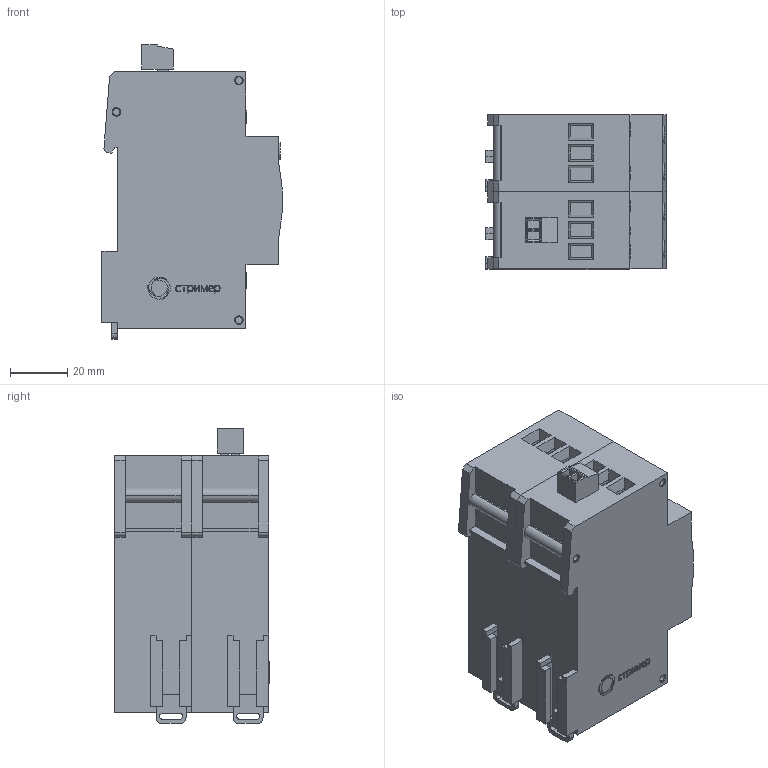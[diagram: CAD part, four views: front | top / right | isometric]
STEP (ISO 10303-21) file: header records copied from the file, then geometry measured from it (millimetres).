
FILE_DESCRIPTION(('TFLEX Exchange Step'),'2;1');
FILE_NAME('X2\041004400442\X0\.134.101.stp', '2022-07-15T15:46:55+03:00',('Pavel Oborin'),('Unknown organisation'),'TFLEX Exchange 2019.2','T-FLEX CAD','Unknown authorisation');
FILE_SCHEMA( ('AUTOMOTIVE_DESIGN { 1 0 10303 214 1 1 1 1 }') );
Length unit declared in the file: millimetre
Products named in the file (10): 0; Арт.134.101 с двумя отверстиями:22; Арт.134.101 с двумя отверстиями; Сигнализация маленькая:2; Сигнализация маленькая; Тело_8 - Линейный массив_1:3; Тело_8 - Линейный массив_1:2; Тело_8 - Линейный массив_1:1; <Винты нормальные>Винт ГОСТ Р ИСО 1207:3; Арт.134.101
Assembly tree (14 placements, depth 3):
  Арт.134.101
    0
    Арт.134.101 с двумя отверстиями
      Арт.134.101 с двумя отверстиями:22  x3
    Сигнализация маленькая
      Сигнализация маленькая:2  x2
    Тело_8 - Линейный массив_1:3
    Тело_8 - Линейный массив_1:2
    Тело_8 - Линейный массив_1:1
    <Винты нормальные>Винт ГОСТ Р ИСО 1207:3  x3
Bounding box: 63.17 x 54.2 x 103.35 mm (x, y, z)
Volume: 249829.2 mm3; surface area: 45930.2 mm2
Topology: 79 solids, 82 shells, 1118 faces, 2659 edges, 1750 vertices
Faces by surface type: plane 693, bspline 195, cylinder 172, torus 38, cone 20
Full cylindrical faces by diameter (mm): 1.6 x2, 3 x2
Entity records: 34955 total; most frequent: CARTESIAN_POINT 11425, ORIENTED_EDGE 4990, DIRECTION 4218, EDGE_CURVE 2495, VERTEX_POINT 1642, VECTOR 1634, LINE 1634, AXIS2_PLACEMENT_3D 1292
